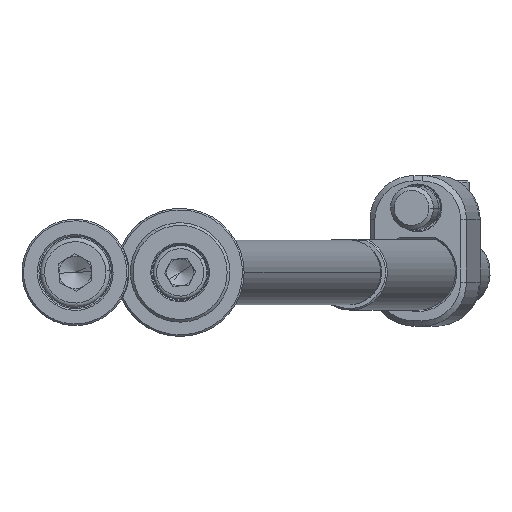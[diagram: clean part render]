
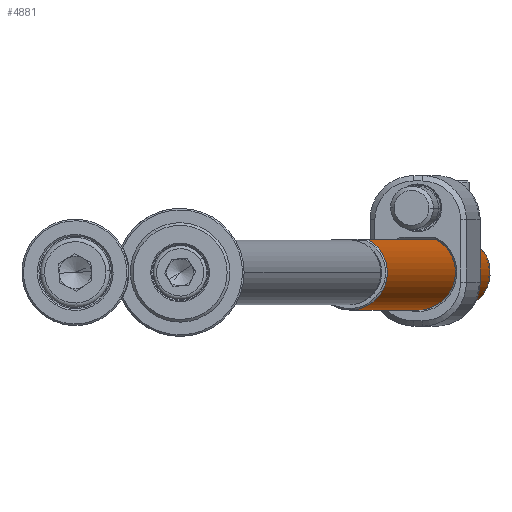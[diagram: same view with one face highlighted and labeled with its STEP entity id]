
A CAD part, front view. The second image highlights one B-rep face of the part: STEP entity #4881.
In plain terms, the highlighted cylindrical face has radius 7 mm (diameter 14 mm), a partial arc.
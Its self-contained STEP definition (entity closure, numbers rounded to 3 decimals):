
#436 = B_SPLINE_CURVE_WITH_KNOTS ( 'NONE', 3,
 ( #9819, #10775, #3162, #1854 ),
 .UNSPECIFIED., .F., .F.,
 ( 4, 4 ),
 ( 0., 0. ),
 .UNSPECIFIED. ) ;
#534 = EDGE_CURVE ( 'NONE', #13991, #14111, #8313, .T. ) ;
#1099 = VERTEX_POINT ( 'NONE', #5775 ) ;
#1397 = DIRECTION ( 'NONE',  ( 0., 0., -1. ) ) ;
#1466 = DIRECTION ( 'NONE',  ( 0., 0., -1. ) ) ;
#1562 = CARTESIAN_POINT ( 'NONE',  ( 5.744, -4., 9.635 ) ) ;
#1854 = CARTESIAN_POINT ( 'NONE',  ( 6.2, -3.25, 12.5 ) ) ;
#2054 = DIRECTION ( 'NONE',  ( 0., 0., -1. ) ) ;
#2205 = ORIENTED_EDGE ( 'NONE', *, *, #8973, .F. ) ;
#2408 = FACE_OUTER_BOUND ( 'NONE', #9052, .T. ) ;
#2428 = DIRECTION ( 'NONE',  ( 1., 0., 0. ) ) ;
#2465 = ORIENTED_EDGE ( 'NONE', *, *, #8392, .F. ) ;
#2780 = EDGE_CURVE ( 'NONE', #7797, #1099, #14082, .T. ) ;
#3125 = CARTESIAN_POINT ( 'NONE',  ( 6.2, -3.25, 200. ) ) ;
#3162 = CARTESIAN_POINT ( 'NONE',  ( 6.164, -3.317, 12.354 ) ) ;
#3317 = CARTESIAN_POINT ( 'NONE',  ( -7., 0., 200. ) ) ;
#3366 = AXIS2_PLACEMENT_3D ( 'NONE', #5684, #1466, #2428 ) ;
#3736 = CARTESIAN_POINT ( 'NONE',  ( 5.745, -4., 10.372 ) ) ;
#4179 = ORIENTED_EDGE ( 'NONE', *, *, #2780, .F. ) ;
#4286 = EDGE_CURVE ( 'NONE', #11188, #9427, #436, .T. ) ;
#4434 = ORIENTED_EDGE ( 'NONE', *, *, #13584, .T. ) ;
#4594 = DIRECTION ( 'NONE',  ( 0., 0., 1. ) ) ;
#4664 = CARTESIAN_POINT ( 'NONE',  ( -7., 0., 0.3 ) ) ;
#4714 = DIRECTION ( 'NONE',  ( -1., 0., 0. ) ) ;
#4881 = ADVANCED_FACE ( 'NONE', ( #2408 ), #13489, .T. ) ;
#4894 = CARTESIAN_POINT ( 'NONE',  ( 6.1, -3.434, 12.052 ) ) ;
#5141 = VERTEX_POINT ( 'NONE', #13987 ) ;
#5255 = VERTEX_POINT ( 'NONE', #10890 ) ;
#5450 = CIRCLE ( 'NONE', #12626, 7. ) ;
#5615 = CARTESIAN_POINT ( 'NONE',  ( 6.1, -3.434, 7.948 ) ) ;
#5684 = CARTESIAN_POINT ( 'NONE',  ( 0., 0., 199.7 ) ) ;
#5775 = CARTESIAN_POINT ( 'NONE',  ( 6.2, -3.25, 0.3 ) ) ;
#5836 = CARTESIAN_POINT ( 'NONE',  ( 5.78, -3.95, 9.275 ) ) ;
#6003 = CARTESIAN_POINT ( 'NONE',  ( 6.1, -3.434, 7.948 ) ) ;
#6065 = CARTESIAN_POINT ( 'NONE',  ( 6.002, -3.604, 11.745 ) ) ;
#6252 = ORIENTED_EDGE ( 'NONE', *, *, #6450, .T. ) ;
#6450 = EDGE_CURVE ( 'NONE', #14111, #1099, #5450, .T. ) ;
#6474 = CARTESIAN_POINT ( 'NONE',  ( 6.1, -3.434, 12.052 ) ) ;
#6735 = ORIENTED_EDGE ( 'NONE', *, *, #11289, .T. ) ;
#6849 = CARTESIAN_POINT ( 'NONE',  ( 6.049, -3.524, 8.099 ) ) ;
#6922 = B_SPLINE_CURVE_WITH_KNOTS ( 'NONE', 3,
 ( #9025, #12149, #9085, #5615 ),
 .UNSPECIFIED., .F., .F.,
 ( 4, 4 ),
 ( 0., 0. ),
 .UNSPECIFIED. ) ;
#6944 = ORIENTED_EDGE ( 'NONE', *, *, #4286, .T. ) ;
#7408 = CARTESIAN_POINT ( 'NONE',  ( 6.2, -3.25, 200. ) ) ;
#7459 = LINE ( 'NONE', #3125, #12857 ) ;
#7722 = DIRECTION ( 'NONE',  ( 0., 0., -1. ) ) ;
#7797 = VERTEX_POINT ( 'NONE', #10885 ) ;
#8137 = DIRECTION ( 'NONE',  ( 1., 0., 0. ) ) ;
#8148 = CARTESIAN_POINT ( 'NONE',  ( 5.915, -3.744, 8.582 ) ) ;
#8222 = CARTESIAN_POINT ( 'NONE',  ( -7., 0., 199.7 ) ) ;
#8270 = AXIS2_PLACEMENT_3D ( 'NONE', #9131, #1397, #4714 ) ;
#8313 = LINE ( 'NONE', #3317, #13139 ) ;
#8392 = EDGE_CURVE ( 'NONE', #5141, #9427, #7459, .T. ) ;
#8553 = DIRECTION ( 'NONE',  ( 0., 0., -1. ) ) ;
#8973 = EDGE_CURVE ( 'NONE', #11188, #5255, #11612, .T. ) ;
#9025 = CARTESIAN_POINT ( 'NONE',  ( 6.2, -3.25, 7.5 ) ) ;
#9052 = EDGE_LOOP ( 'NONE', ( #6735, #12295, #6252, #4179, #4434, #2205, #6944, #2465 ) ) ;
#9085 = CARTESIAN_POINT ( 'NONE',  ( 6.131, -3.379, 7.796 ) ) ;
#9131 = CARTESIAN_POINT ( 'NONE',  ( 0., 0., 200. ) ) ;
#9170 = CARTESIAN_POINT ( 'NONE',  ( 6.049, -3.524, 11.901 ) ) ;
#9247 = CARTESIAN_POINT ( 'NONE',  ( 5.876, -3.804, 11.25 ) ) ;
#9427 = VERTEX_POINT ( 'NONE', #13038 ) ;
#9819 = CARTESIAN_POINT ( 'NONE',  ( 6.1, -3.434, 12.052 ) ) ;
#10100 = CARTESIAN_POINT ( 'NONE',  ( 0., 0., 0.3 ) ) ;
#10482 = CARTESIAN_POINT ( 'NONE',  ( 5.876, -3.805, 8.752 ) ) ;
#10775 = CARTESIAN_POINT ( 'NONE',  ( 6.131, -3.379, 12.204 ) ) ;
#10885 = CARTESIAN_POINT ( 'NONE',  ( 6.2, -3.25, 7.5 ) ) ;
#10890 = CARTESIAN_POINT ( 'NONE',  ( 6.1, -3.434, 7.948 ) ) ;
#11188 = VERTEX_POINT ( 'NONE', #6474 ) ;
#11289 = EDGE_CURVE ( 'NONE', #5141, #13991, #11700, .T. ) ;
#11433 = CARTESIAN_POINT ( 'NONE',  ( 5.915, -3.744, 11.42 ) ) ;
#11612 = B_SPLINE_CURVE_WITH_KNOTS ( 'NONE', 3,
 ( #4894, #9170, #6065, #11433, #9247, #13684, #3736, #1562, #5836, #10482, #8148, #12456, #6849, #6003 ),
 .UNSPECIFIED., .F., .F.,
 ( 4, 2, 2, 2, 2, 2, 4 ),
 ( 0., 0.001, 0.001, 0.003, 0.004, 0.004, 0.005 ),
 .UNSPECIFIED. ) ;
#11700 = CIRCLE ( 'NONE', #3366, 7. ) ;
#12149 = CARTESIAN_POINT ( 'NONE',  ( 6.164, -3.317, 7.646 ) ) ;
#12295 = ORIENTED_EDGE ( 'NONE', *, *, #534, .T. ) ;
#12456 = CARTESIAN_POINT ( 'NONE',  ( 6.001, -3.604, 8.256 ) ) ;
#12626 = AXIS2_PLACEMENT_3D ( 'NONE', #10100, #4594, #8137 ) ;
#12857 = VECTOR ( 'NONE', #2054, 1000. ) ;
#13038 = CARTESIAN_POINT ( 'NONE',  ( 6.2, -3.25, 12.5 ) ) ;
#13139 = VECTOR ( 'NONE', #7722, 1000. ) ;
#13406 = VECTOR ( 'NONE', #8553, 1000. ) ;
#13489 = CYLINDRICAL_SURFACE ( 'NONE', #8270, 7. ) ;
#13584 = EDGE_CURVE ( 'NONE', #7797, #5255, #6922, .T. ) ;
#13684 = CARTESIAN_POINT ( 'NONE',  ( 5.781, -3.95, 10.729 ) ) ;
#13987 = CARTESIAN_POINT ( 'NONE',  ( 6.2, -3.25, 199.7 ) ) ;
#13991 = VERTEX_POINT ( 'NONE', #8222 ) ;
#14082 = LINE ( 'NONE', #7408, #13406 ) ;
#14111 = VERTEX_POINT ( 'NONE', #4664 ) ;
